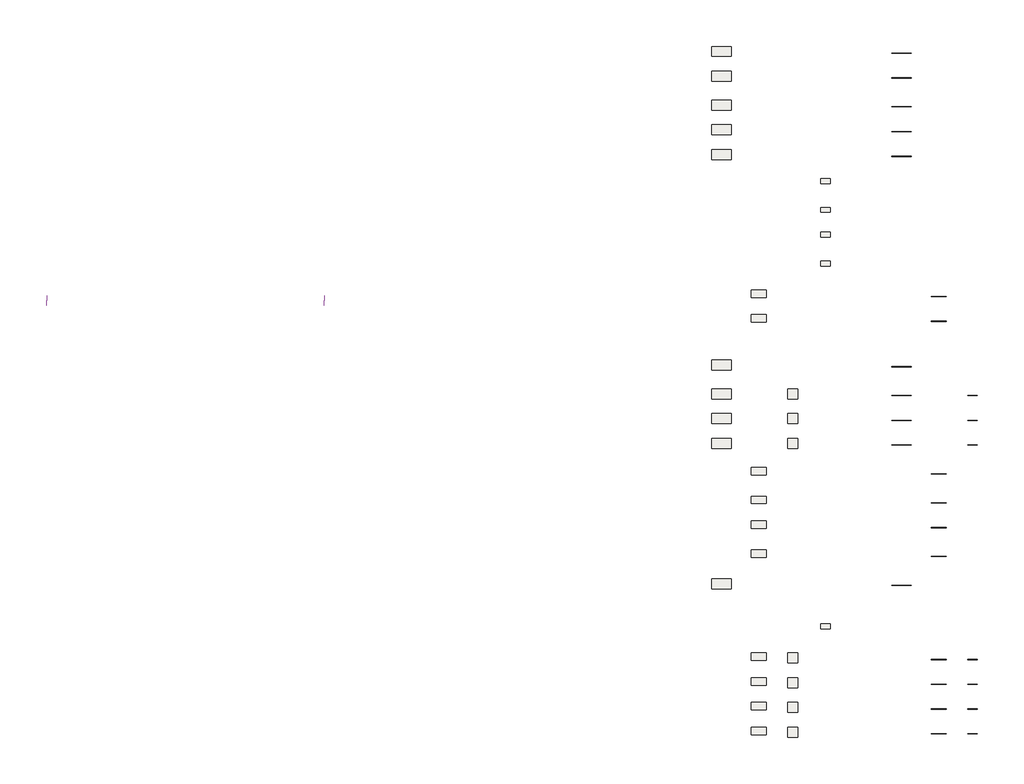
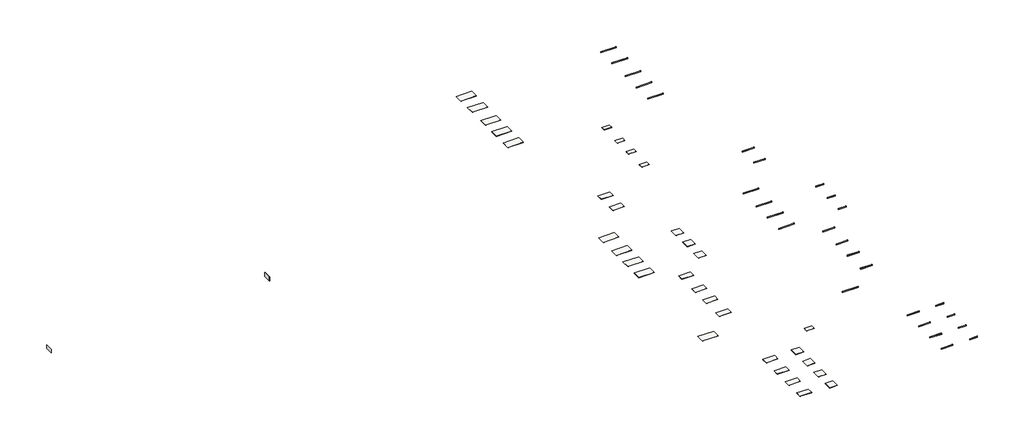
# One storey: 32 slabs, 29 walls, 27 proxies.
"""IFC4 building model written with IfcOpenShell, lengths in millimetres."""

from ifc_helpers import new_model, si_unit, frame, origin, place, context, project, spatial, polyline, outline, extrude, element, save

model = new_model("IFC4")

# Units and contexts
model_context = context("Model", 3, world=origin())
ifc_project = project(units=[si_unit("LENGTHUNIT", "METRE", prefix="MILLI")], contexts=[model_context])

# Site, building, storey
site = spatial("IfcSite", under=ifc_project)
building = spatial("IfcBuilding", under=site)
storey = spatial("IfcBuildingStorey", under=building, Name="apariencia PIEDRA", Elevation=18000.0)

# Proxies
placement = place(None, origin())
element("IfcBuildingElementProxy", 1, Name="Cesantoni_Atis _8x120_RO_Grigio_Mate", ObjectType="Cesantoni_Atis _8x120_RO_Grigio_Mate", at=placement, inside=storey, context=model_context, shape_type="SweptSolid", body=[
    extrude(outline(polyline([(9669.8218898, 374.781227), (9669.8218898, 385.781227), (10869.8218898, 385.781227), (10869.8218898, 374.781227), (9669.8218898, 374.781227)])), frame((0.0, 0.0, 18000.0), z_axis=(0.0, 0.0, 1.0), x_axis=(1.0, 0.0, 0.0)), (0.0, 0.0, 1.0), 80.0),
])
element("IfcBuildingElementProxy", 2, Name="Cesantoni_Atis _8x120_RO_Marfil_Mate", ObjectType="Cesantoni_Atis _8x120_RO_Marfil_Mate", at=placement, inside=storey, context=model_context, shape_type="SweptSolid", body=[
    extrude(outline(polyline([(9669.8218898, -1125.218773), (9669.8218898, -1114.218773), (10869.8218898, -1114.218773), (10869.8218898, -1125.218773), (9669.8218898, -1125.218773)])), frame((0.0, 0.0, 18000.0), z_axis=(0.0, 0.0, 1.0), x_axis=(1.0, 0.0, 0.0)), (0.0, 0.0, 1.0), 80.0),
])
element("IfcBuildingElementProxy", 3, Name="Cesantoni_Botev _8x120_RO_Marfil_Mate", ObjectType="Cesantoni_Botev _8x120_RO_Marfil_Mate", at=placement, inside=storey, context=model_context, shape_type="SweptSolid", body=[
    extrude(outline(polyline([(9669.8218898, -2875.218773), (9669.8218898, -2864.218773), (10869.8218898, -2864.218773), (10869.8218898, -2875.218773), (9669.8218898, -2875.218773)])), frame((0.0, 0.0, 18000.0), z_axis=(0.0, 0.0, 1.0), x_axis=(1.0, 0.0, 0.0)), (0.0, 0.0, 1.0), 80.0),
])
element("IfcBuildingElementProxy", 4, Name="Cesantoni_Botev _8x120_RO_Tabaco_Mate", ObjectType="Cesantoni_Botev _8x120_RO_Tabaco_Mate", at=placement, inside=storey, context=model_context, shape_type="SweptSolid", body=[
    extrude(outline(polyline([(9669.8218898, -4375.218773), (9669.8218898, -4364.218773), (10869.8218898, -4364.218773), (10869.8218898, -4375.218773), (9669.8218898, -4375.218773)])), frame((0.0, 0.0, 18000.0), z_axis=(0.0, 0.0, 1.0), x_axis=(1.0, 0.0, 0.0)), (0.0, 0.0, 1.0), 80.0),
])
element("IfcBuildingElementProxy", 5, Name="Cesantoni_Botev _8x120_RO_Taupé_Mate", ObjectType="Cesantoni_Botev _8x120_RO_Taupé_Mate", at=placement, inside=storey, context=model_context, shape_type="SweptSolid", body=[
    extrude(outline(polyline([(9669.8218898, -5875.218773), (9669.8218898, -5864.218773), (10869.8218898, -5864.218773), (10869.8218898, -5875.218773), (9669.8218898, -5875.218773)])), frame((0.0, 0.0, 18000.0), z_axis=(0.0, 0.0, 1.0), x_axis=(1.0, 0.0, 0.0)), (0.0, 0.0, 1.0), 80.0),
])
element("IfcBuildingElementProxy", 6, Name="Cesantoni_Gaudi_8x90_RO_Gris_Mate", ObjectType="Cesantoni_Gaudi_8x90_RO_Gris_Mate", at=placement, inside=storey, context=model_context, shape_type="SweptSolid", body=[
    extrude(outline(polyline([(12069.8218898, -14375.218773), (12069.8218898, -14364.218773), (12969.8218898, -14364.218773), (12969.8218898, -14375.218773), (12069.8218898, -14375.218773)])), frame((0.0, 0.0, 18000.0), z_axis=(0.0, 0.0, 1.0), x_axis=(1.0, 0.0, 0.0)), (0.0, 0.0, 1.0), 80.0),
])
element("IfcBuildingElementProxy", 7, Name="Cesantoni_Gaudi_8x90_RO_Café_Mate", ObjectType="Cesantoni_Gaudi_8x90_RO_Café_Mate", at=placement, inside=storey, context=model_context, shape_type="SweptSolid", body=[
    extrude(outline(polyline([(12069.8218898, -15875.218773), (12069.8218898, -15864.218773), (12969.8218898, -15864.218773), (12969.8218898, -15875.218773), (12069.8218898, -15875.218773)])), frame((0.0, 0.0, 18000.0), z_axis=(0.0, 0.0, 1.0), x_axis=(1.0, 0.0, 0.0)), (0.0, 0.0, 1.0), 80.0),
])
element("IfcBuildingElementProxy", 8, Name="Cesantoni_Helsinki _8x120_RO_Helsinki _Mate", ObjectType="Cesantoni_Helsinki _8x120_RO_Helsinki _Mate", at=placement, inside=storey, context=model_context, shape_type="SweptSolid", body=[
    extrude(outline(polyline([(9669.8218898, -18625.218773), (9669.8218898, -18614.218773), (10869.8218898, -18614.218773), (10869.8218898, -18625.218773), (9669.8218898, -18625.218773)])), frame((0.0, 0.0, 18000.0), z_axis=(0.0, 0.0, 1.0), x_axis=(1.0, 0.0, 0.0)), (0.0, 0.0, 1.0), 80.0),
])
element("IfcBuildingElementProxy", 9, Name="Cesantoni_Kiel_8x60_RO_Sand_Mate", ObjectType="Cesantoni_Kiel_8x60_RO_Sand_Mate", at=placement, inside=storey, context=model_context, shape_type="SweptSolid", body=[
    extrude(outline(polyline([(14269.8218898, -20375.218773), (14269.8218898, -20364.218773), (14869.8218898, -20364.218773), (14869.8218898, -20375.218773), (14269.8218898, -20375.218773)])), frame((0.0, 0.0, 18000.0), z_axis=(0.0, 0.0, 1.0), x_axis=(1.0, 0.0, 0.0)), (0.0, 0.0, 1.0), 80.0),
])
element("IfcBuildingElementProxy", 10, Name="Cesantoni_Kiel_8x60_RO_Gray_Mate", ObjectType="Cesantoni_Kiel_8x60_RO_Gray_Mate", at=placement, inside=storey, context=model_context, shape_type="SweptSolid", body=[
    extrude(outline(polyline([(14269.8218898, -21875.218773), (14269.8218898, -21864.218773), (14869.8218898, -21864.218773), (14869.8218898, -21875.218773), (14269.8218898, -21875.218773)])), frame((0.0, 0.0, 18000.0), z_axis=(0.0, 0.0, 1.0), x_axis=(1.0, 0.0, 0.0)), (0.0, 0.0, 1.0), 80.0),
])
element("IfcBuildingElementProxy", 11, Name="Cesantoni_Kiel_8x60_RO_Dark_Mate", ObjectType="Cesantoni_Kiel_8x60_RO_Dark_Mate", at=placement, inside=storey, context=model_context, shape_type="SweptSolid", body=[
    extrude(outline(polyline([(14269.8218898, -23375.218773), (14269.8218898, -23364.218773), (14869.8218898, -23364.218773), (14869.8218898, -23375.218773), (14269.8218898, -23375.218773)])), frame((0.0, 0.0, 18000.0), z_axis=(0.0, 0.0, 1.0), x_axis=(1.0, 0.0, 0.0)), (0.0, 0.0, 1.0), 80.0),
])
element("IfcBuildingElementProxy", 12, Name="Cesantoni_Kiel_8x120_RO_Sand_Mate", ObjectType="Cesantoni_Kiel_8x120_RO_Sand_Mate", at=placement, inside=storey, context=model_context, shape_type="SweptSolid", body=[
    extrude(outline(polyline([(9669.8218898, -20375.218773), (9669.8218898, -20364.218773), (10869.8218898, -20364.218773), (10869.8218898, -20375.218773), (9669.8218898, -20375.218773)])), frame((0.0, 0.0, 18000.0), z_axis=(0.0, 0.0, 1.0), x_axis=(1.0, 0.0, 0.0)), (0.0, 0.0, 1.0), 80.0),
])
element("IfcBuildingElementProxy", 13, Name="Cesantoni_Kiel_8x120_RO_Dark_Mate", ObjectType="Cesantoni_Kiel_8x120_RO_Dark_Mate", at=placement, inside=storey, context=model_context, shape_type="SweptSolid", body=[
    extrude(outline(polyline([(9669.8218898, -21875.218773), (9669.8218898, -21864.218773), (10869.8218898, -21864.218773), (10869.8218898, -21875.218773), (9669.8218898, -21875.218773)])), frame((0.0, 0.0, 18000.0), z_axis=(0.0, 0.0, 1.0), x_axis=(1.0, 0.0, 0.0)), (0.0, 0.0, 1.0), 80.0),
])
element("IfcBuildingElementProxy", 14, Name="Cesantoni_Kiel_8x120_RO_Gray_Mate", ObjectType="Cesantoni_Kiel_8x120_RO_Gray_Mate", at=placement, inside=storey, context=model_context, shape_type="SweptSolid", body=[
    extrude(outline(polyline([(9669.8218898, -23375.218773), (9669.8218898, -23364.218773), (10869.8218898, -23364.218773), (10869.8218898, -23375.218773), (9669.8218898, -23375.218773)])), frame((0.0, 0.0, 18000.0), z_axis=(0.0, 0.0, 1.0), x_axis=(1.0, 0.0, 0.0)), (0.0, 0.0, 1.0), 80.0),
])
element("IfcBuildingElementProxy", 15, Name="Cesantoni_Lanz_8x90_RO_Lanz_Mate", ObjectType="Cesantoni_Lanz_8x90_RO_Lanz_Mate", at=placement, inside=storey, context=model_context, shape_type="SweptSolid", body=[
    extrude(outline(polyline([(12069.8218898, -25125.218773), (12069.8218898, -25114.218773), (12969.8218898, -25114.218773), (12969.8218898, -25125.218773), (12069.8218898, -25125.218773)])), frame((0.0, 0.0, 18000.0), z_axis=(0.0, 0.0, 1.0), x_axis=(1.0, 0.0, 0.0)), (0.0, 0.0, 1.0), 80.0),
])
element("IfcBuildingElementProxy", 16, Name="Cesantoni_Lemek_8x90_RO_Grafito_Mate", ObjectType="Cesantoni_Lemek_8x90_RO_Grafito_Mate", at=placement, inside=storey, context=model_context, shape_type="SweptSolid", body=[
    extrude(outline(polyline([(12069.8218898, -26875.218773), (12069.8218898, -26864.218773), (12969.8218898, -26864.218773), (12969.8218898, -26875.218773), (12069.8218898, -26875.218773)])), frame((0.0, 0.0, 18000.0), z_axis=(0.0, 0.0, 1.0), x_axis=(1.0, 0.0, 0.0)), (0.0, 0.0, 1.0), 80.0),
])
element("IfcBuildingElementProxy", 17, Name="Cesantoni_Lemek_8x90_RO_Blanco_Mate", ObjectType="Cesantoni_Lemek_8x90_RO_Blanco_Mate", at=placement, inside=storey, context=model_context, shape_type="SweptSolid", body=[
    extrude(outline(polyline([(12069.8218898, -28375.218773), (12069.8218898, -28364.218773), (12969.8218898, -28364.218773), (12969.8218898, -28375.218773), (12069.8218898, -28375.218773)])), frame((0.0, 0.0, 18000.0), z_axis=(0.0, 0.0, 1.0), x_axis=(1.0, 0.0, 0.0)), (0.0, 0.0, 1.0), 80.0),
])
element("IfcBuildingElementProxy", 18, Name="Cesantoni_Lombardi _8x90_RO_Taupé_Mate", ObjectType="Cesantoni_Lombardi _8x90_RO_Taupé_Mate", at=placement, inside=storey, context=model_context, shape_type="SweptSolid", body=[
    extrude(outline(polyline([(12069.8218898, -30125.218773), (12069.8218898, -30114.218773), (12969.8218898, -30114.218773), (12969.8218898, -30125.218773), (12069.8218898, -30125.218773)])), frame((0.0, 0.0, 18000.0), z_axis=(0.0, 0.0, 1.0), x_axis=(1.0, 0.0, 0.0)), (0.0, 0.0, 1.0), 80.0),
])
element("IfcBuildingElementProxy", 19, Name="Cesantoni_Martel_Gray _8x120_RO_Martel_Gray _Mate", ObjectType="Cesantoni_Martel_Gray _8x120_RO_Martel_Gray _Mate", at=placement, inside=storey, context=model_context, shape_type="SweptSolid", body=[
    extrude(outline(polyline([(9669.8218898, -31875.218773), (9669.8218898, -31864.218773), (10869.8218898, -31864.218773), (10869.8218898, -31875.218773), (9669.8218898, -31875.218773)])), frame((0.0, 0.0, 18000.0), z_axis=(0.0, 0.0, 1.0), x_axis=(1.0, 0.0, 0.0)), (0.0, 0.0, 1.0), 80.0),
])
element("IfcBuildingElementProxy", 20, Name="Cesantoni_Piamont_8x90_RO_Beige_Mate", ObjectType="Cesantoni_Piamont_8x90_RO_Beige_Mate", at=placement, inside=storey, context=model_context, shape_type="SweptSolid", body=[
    extrude(outline(polyline([(12069.8218898, -36375.218773), (12069.8218898, -36364.218773), (12969.8218898, -36364.218773), (12969.8218898, -36375.218773), (12069.8218898, -36375.218773)])), frame((0.0, 0.0, 18000.0), z_axis=(0.0, 0.0, 1.0), x_axis=(1.0, 0.0, 0.0)), (0.0, 0.0, 1.0), 80.0),
])
element("IfcBuildingElementProxy", 21, Name="Cesantoni_Piamont_8x90_RO_Blanco_Mate", ObjectType="Cesantoni_Piamont_8x90_RO_Blanco_Mate", at=placement, inside=storey, context=model_context, shape_type="SweptSolid", body=[
    extrude(outline(polyline([(12069.8218898, -37875.218773), (12069.8218898, -37864.218773), (12969.8218898, -37864.218773), (12969.8218898, -37875.218773), (12069.8218898, -37875.218773)])), frame((0.0, 0.0, 18000.0), z_axis=(0.0, 0.0, 1.0), x_axis=(1.0, 0.0, 0.0)), (0.0, 0.0, 1.0), 80.0),
])
element("IfcBuildingElementProxy", 22, Name="Cesantoni_Piamont_8x90_RO_Café_Mate", ObjectType="Cesantoni_Piamont_8x90_RO_Café_Mate", at=placement, inside=storey, context=model_context, shape_type="SweptSolid", body=[
    extrude(outline(polyline([(12069.8218898, -39375.218773), (12069.8218898, -39364.218773), (12969.8218898, -39364.218773), (12969.8218898, -39375.218773), (12069.8218898, -39375.218773)])), frame((0.0, 0.0, 18000.0), z_axis=(0.0, 0.0, 1.0), x_axis=(1.0, 0.0, 0.0)), (0.0, 0.0, 1.0), 80.0),
])
element("IfcBuildingElementProxy", 23, Name="Cesantoni_Piamont_8x90_RO_Gris_Mate", ObjectType="Cesantoni_Piamont_8x90_RO_Gris_Mate", at=placement, inside=storey, context=model_context, shape_type="SweptSolid", body=[
    extrude(outline(polyline([(12069.8218898, -40875.218773), (12069.8218898, -40864.218773), (12969.8218898, -40864.218773), (12969.8218898, -40875.218773), (12069.8218898, -40875.218773)])), frame((0.0, 0.0, 18000.0), z_axis=(0.0, 0.0, 1.0), x_axis=(1.0, 0.0, 0.0)), (0.0, 0.0, 1.0), 80.0),
])
element("IfcBuildingElementProxy", 24, Name="Cesantoni_Piamont_8x60_RO_Beige_Mate", ObjectType="Cesantoni_Piamont_8x60_RO_Beige_Mate", at=placement, inside=storey, context=model_context, shape_type="SweptSolid", body=[
    extrude(outline(polyline([(14269.8218898, -36375.218773), (14269.8218898, -36364.218773), (14869.8218898, -36364.218773), (14869.8218898, -36375.218773), (14269.8218898, -36375.218773)])), frame((0.0, 0.0, 18000.0), z_axis=(0.0, 0.0, 1.0), x_axis=(1.0, 0.0, 0.0)), (0.0, 0.0, 1.0), 80.0),
])
element("IfcBuildingElementProxy", 25, Name="Cesantoni_Piamont_8x60_RO_Blanco_Mate", ObjectType="Cesantoni_Piamont_8x60_RO_Blanco_Mate", at=placement, inside=storey, context=model_context, shape_type="SweptSolid", body=[
    extrude(outline(polyline([(14269.8218898, -37875.218773), (14269.8218898, -37864.218773), (14869.8218898, -37864.218773), (14869.8218898, -37875.218773), (14269.8218898, -37875.218773)])), frame((0.0, 0.0, 18000.0), z_axis=(0.0, 0.0, 1.0), x_axis=(1.0, 0.0, 0.0)), (0.0, 0.0, 1.0), 80.0),
])
element("IfcBuildingElementProxy", 26, Name="Cesantoni_Piamont_8x60_RO_Café_Mate", ObjectType="Cesantoni_Piamont_8x60_RO_Café_Mate", at=placement, inside=storey, context=model_context, shape_type="SweptSolid", body=[
    extrude(outline(polyline([(14269.8218898, -39375.218773), (14269.8218898, -39364.218773), (14869.8218898, -39364.218773), (14869.8218898, -39375.218773), (14269.8218898, -39375.218773)])), frame((0.0, 0.0, 18000.0), z_axis=(0.0, 0.0, 1.0), x_axis=(1.0, 0.0, 0.0)), (0.0, 0.0, 1.0), 80.0),
])
element("IfcBuildingElementProxy", 27, Name="Cesantoni_Piamont_8x60_RO_Gris_Mate", ObjectType="Cesantoni_Piamont_8x60_RO_Gris_Mate", at=placement, inside=storey, context=model_context, shape_type="SweptSolid", body=[
    extrude(outline(polyline([(14269.8218898, -40875.218773), (14269.8218898, -40864.218773), (14869.8218898, -40864.218773), (14869.8218898, -40875.218773), (14269.8218898, -40875.218773)])), frame((0.0, 0.0, 18000.0), z_axis=(0.0, 0.0, 1.0), x_axis=(1.0, 0.0, 0.0)), (0.0, 0.0, 1.0), 80.0),
])

# Slabs
element("IfcSlab", 28, ObjectType="Cesantoni_Atis _60x120_RECT_Grigio_Mate", at=placement, inside=storey, context=model_context, shape_type="SweptSolid", body=[
    extrude(outline(polyline([(-28.1781102, 784.4826442), (-28.1781102, 182.4826442), (-1230.1781102, 182.4826442), (-1230.1781102, 784.4826442), (-28.1781102, 784.4826442)])), frame((0.0, 0.0, 17989.0), z_axis=(0.0, 0.0, 1.0), x_axis=(1.0, 0.0, 0.0)), (0.0, 0.0, 1.0), 11.0),
])
element("IfcSlab", 29, ObjectType="Cesantoni_Atis _60x120_RECT_Marfil_Mate", at=placement, inside=storey, context=model_context, shape_type="SweptSolid", body=[
    extrude(outline(polyline([(-28.1781102, -715.5173558), (-28.1781102, -1317.5173558), (-1230.1781102, -1317.5173558), (-1230.1781102, -715.5173558), (-28.1781102, -715.5173558)])), frame((0.0, 0.0, 17989.0), z_axis=(0.0, 0.0, 1.0), x_axis=(1.0, 0.0, 0.0)), (0.0, 0.0, 1.0), 11.0),
])
element("IfcSlab", 30, ObjectType="Cesantoni_Botev _60x120_RECT_Marfil_Mate", at=placement, inside=storey, context=model_context, shape_type="SweptSolid", body=[
    extrude(outline(polyline([(-28.1781102, -2465.5173558), (-28.1781102, -3067.5173558), (-1230.1781102, -3067.5173558), (-1230.1781102, -2465.5173558), (-28.1781102, -2465.5173558)])), frame((0.0, 0.0, 17989.0), z_axis=(0.0, 0.0, 1.0), x_axis=(1.0, 0.0, 0.0)), (0.0, 0.0, 1.0), 11.0),
])
element("IfcSlab", 31, ObjectType="Cesantoni_Botev _60x120_RECT_Tabaco_Mate", at=placement, inside=storey, context=model_context, shape_type="SweptSolid", body=[
    extrude(outline(polyline([(-28.1781102, -3965.5173558), (-28.1781102, -4567.5173558), (-1230.1781102, -4567.5173558), (-1230.1781102, -3965.5173558), (-28.1781102, -3965.5173558)])), frame((0.0, 0.0, 17989.0), z_axis=(0.0, 0.0, 1.0), x_axis=(1.0, 0.0, 0.0)), (0.0, 0.0, 1.0), 11.0),
])
element("IfcSlab", 32, ObjectType="Cesantoni_Botev _60x120_RECT_Taupé_Mate", at=placement, inside=storey, context=model_context, shape_type="SweptSolid", body=[
    extrude(outline(polyline([(-28.1781102, -5465.5173558), (-28.1781102, -6067.5173558), (-1230.1781102, -6067.5173558), (-1230.1781102, -5465.5173558), (-28.1781102, -5465.5173558)])), frame((0.0, 0.0, 17989.0), z_axis=(0.0, 0.0, 1.0), x_axis=(1.0, 0.0, 0.0)), (0.0, 0.0, 1.0), 11.0),
])
element("IfcSlab", 33, ObjectType="Cesantoni_Clever_29.5x58_Clever_Mate", at=placement, inside=storey, context=model_context, shape_type="SweptSolid", body=[
    extrude(outline(polyline([(5953.8218898, -7215.5173558), (5953.8218898, -7514.5173558), (5369.8218898, -7514.5173558), (5369.8218898, -7215.5173558), (5953.8218898, -7215.5173558)])), frame((0.0, 0.0, 17989.0), z_axis=(0.0, 0.0, 1.0), x_axis=(1.0, 0.0, 0.0)), (0.0, 0.0, 1.0), 11.0),
])
element("IfcSlab", 34, ObjectType="Cesantoni_Etiopia_29.5x58_Beige_Mate", at=placement, inside=storey, context=model_context, shape_type="SweptSolid", body=[
    extrude(outline(polyline([(5953.8218898, -8965.5173558), (5953.8218898, -9264.5173558), (5369.8218898, -9264.5173558), (5369.8218898, -8965.5173558), (5953.8218898, -8965.5173558)])), frame((0.0, 0.0, 17991.0), z_axis=(0.0, 0.0, 1.0), x_axis=(1.0, 0.0, 0.0)), (0.0, 0.0, 1.0), 9.0),
])
element("IfcSlab", 35, ObjectType="Cesantoni_Etiopia_29.5x58_Café_Mate", at=placement, inside=storey, context=model_context, shape_type="SweptSolid", body=[
    extrude(outline(polyline([(5953.8218898, -10465.5173558), (5953.8218898, -10764.5173558), (5369.8218898, -10764.5173558), (5369.8218898, -10465.5173558), (5953.8218898, -10465.5173558)])), frame((0.0, 0.0, 17991.0), z_axis=(0.0, 0.0, 1.0), x_axis=(1.0, 0.0, 0.0)), (0.0, 0.0, 1.0), 9.0),
])
element("IfcSlab", 36, ObjectType="Cesantoni_Gaskan_29.5x58_Gaskan_Mate", at=placement, inside=storey, context=model_context, shape_type="SweptSolid", body=[
    extrude(outline(polyline([(5953.8218898, -12215.5173558), (5953.8218898, -12514.5173558), (5369.8218898, -12514.5173558), (5369.8218898, -12215.5173558), (5953.8218898, -12215.5173558)])), frame((0.0, 0.0, 17991.0), z_axis=(0.0, 0.0, 1.0), x_axis=(1.0, 0.0, 0.0)), (0.0, 0.0, 1.0), 9.0),
])
element("IfcSlab", 37, ObjectType="Cesantoni_Gaudi_45x90_RECT_Gris_Mate", at=placement, inside=storey, context=model_context, shape_type="SweptSolid", body=[
    extrude(outline(polyline([(2071.8218898, -13965.5173558), (2071.8218898, -14417.5173558), (1169.8218898, -14417.5173558), (1169.8218898, -13965.5173558), (2071.8218898, -13965.5173558)])), frame((0.0, 0.0, 17989.0), z_axis=(0.0, 0.0, 1.0), x_axis=(1.0, 0.0, 0.0)), (0.0, 0.0, 1.0), 11.0),
])
element("IfcSlab", 38, ObjectType="Cesantoni_Gaudi_45x90_RECT_Café_Mate", at=placement, inside=storey, context=model_context, shape_type="SweptSolid", body=[
    extrude(outline(polyline([(2071.8218898, -15465.5173558), (2071.8218898, -15917.5173558), (1169.8218898, -15917.5173558), (1169.8218898, -15465.5173558), (2071.8218898, -15465.5173558)])), frame((0.0, 0.0, 17989.0), z_axis=(0.0, 0.0, 1.0), x_axis=(1.0, 0.0, 0.0)), (0.0, 0.0, 1.0), 11.0),
])
element("IfcSlab", 39, ObjectType="Cesantoni_Helsinki _60x120_RECT_Helsinki _Mate", at=placement, inside=storey, context=model_context, shape_type="SweptSolid", body=[
    extrude(outline(polyline([(-28.1781102, -18215.5173558), (-28.1781102, -18817.5173558), (-1230.1781102, -18817.5173558), (-1230.1781102, -18215.5173558), (-28.1781102, -18215.5173558)])), frame((0.0, 0.0, 17989.0), z_axis=(0.0, 0.0, 1.0), x_axis=(1.0, 0.0, 0.0)), (0.0, 0.0, 1.0), 11.0),
])
element("IfcSlab", 40, ObjectType="Cesantoni_Kiel_60x120_RECT_Sand_Mate", at=placement, inside=storey, context=model_context, shape_type="SweptSolid", body=[
    extrude(outline(polyline([(-28.1781102, -19965.5173558), (-28.1781102, -20567.5173558), (-1230.1781102, -20567.5173558), (-1230.1781102, -19965.5173558), (-28.1781102, -19965.5173558)])), frame((0.0, 0.0, 17989.0), z_axis=(0.0, 0.0, 1.0), x_axis=(1.0, 0.0, 0.0)), (0.0, 0.0, 1.0), 11.0),
])
element("IfcSlab", 41, ObjectType="Cesantoni_Kiel_60x120_RECT_Gray_Mate", at=placement, inside=storey, context=model_context, shape_type="SweptSolid", body=[
    extrude(outline(polyline([(-28.1781102, -21465.5173558), (-28.1781102, -22067.5173558), (-1230.1781102, -22067.5173558), (-1230.1781102, -21465.5173558), (-28.1781102, -21465.5173558)])), frame((0.0, 0.0, 17989.0), z_axis=(0.0, 0.0, 1.0), x_axis=(1.0, 0.0, 0.0)), (0.0, 0.0, 1.0), 11.0),
])
element("IfcSlab", 42, ObjectType="Cesantoni_Kiel_60x120_RECT_Dark_Mate", at=placement, inside=storey, context=model_context, shape_type="SweptSolid", body=[
    extrude(outline(polyline([(-28.1781102, -22965.5173558), (-28.1781102, -23567.5173558), (-1230.1781102, -23567.5173558), (-1230.1781102, -22965.5173558), (-28.1781102, -22965.5173558)])), frame((0.0, 0.0, 17989.0), z_axis=(0.0, 0.0, 1.0), x_axis=(1.0, 0.0, 0.0)), (0.0, 0.0, 1.0), 11.0),
])
element("IfcSlab", 43, ObjectType="Cesantoni_Kiel_60x60_RECT_Sand_Mate", at=placement, inside=storey, context=model_context, shape_type="SweptSolid", body=[
    extrude(outline(polyline([(3971.8218898, -19965.5173558), (3971.8218898, -20567.5173558), (3369.8218898, -20567.5173558), (3369.8218898, -19965.5173558), (3971.8218898, -19965.5173558)])), frame((0.0, 0.0, 17989.0), z_axis=(0.0, 0.0, 1.0), x_axis=(1.0, 0.0, 0.0)), (0.0, 0.0, 1.0), 11.0),
])
element("IfcSlab", 44, ObjectType="Cesantoni_Kiel_60x60_RECT_Gray_Mate", at=placement, inside=storey, context=model_context, shape_type="SweptSolid", body=[
    extrude(outline(polyline([(3971.8218898, -21465.5173558), (3971.8218898, -22067.5173558), (3369.8218898, -22067.5173558), (3369.8218898, -21465.5173558), (3971.8218898, -21465.5173558)])), frame((0.0, 0.0, 17989.0), z_axis=(0.0, 0.0, 1.0), x_axis=(1.0, 0.0, 0.0)), (0.0, 0.0, 1.0), 11.0),
])
element("IfcSlab", 45, ObjectType="Cesantoni_Kiel_60x60_RECT_Dark_Mate", at=placement, inside=storey, context=model_context, shape_type="SweptSolid", body=[
    extrude(outline(polyline([(3971.8218898, -22965.5173558), (3971.8218898, -23567.5173558), (3369.8218898, -23567.5173558), (3369.8218898, -22965.5173558), (3971.8218898, -22965.5173558)])), frame((0.0, 0.0, 17989.0), z_axis=(0.0, 0.0, 1.0), x_axis=(1.0, 0.0, 0.0)), (0.0, 0.0, 1.0), 11.0),
])
element("IfcSlab", 46, ObjectType="Cesantoni_Lanz_45x90_RECT_Lanz_Mate", at=placement, inside=storey, context=model_context, shape_type="SweptSolid", body=[
    extrude(outline(polyline([(2071.8218898, -24715.5173558), (2071.8218898, -25167.5173558), (1169.8218898, -25167.5173558), (1169.8218898, -24715.5173558), (2071.8218898, -24715.5173558)])), frame((0.0, 0.0, 17989.0), z_axis=(0.0, 0.0, 1.0), x_axis=(1.0, 0.0, 0.0)), (0.0, 0.0, 1.0), 11.0),
])
element("IfcSlab", 47, ObjectType="Cesantoni_Lemek_45x90_RECT_Grafito_Mate", at=placement, inside=storey, context=model_context, shape_type="SweptSolid", body=[
    extrude(outline(polyline([(2071.8218898, -26465.5173558), (2071.8218898, -26917.5173558), (1169.8218898, -26917.5173558), (1169.8218898, -26465.5173558), (2071.8218898, -26465.5173558)])), frame((0.0, 0.0, 17989.0), z_axis=(0.0, 0.0, 1.0), x_axis=(1.0, 0.0, 0.0)), (0.0, 0.0, 1.0), 11.0),
])
element("IfcSlab", 48, ObjectType="Cesantoni_Lemek_45x90_RECT_Blanco_Mate", at=placement, inside=storey, context=model_context, shape_type="SweptSolid", body=[
    extrude(outline(polyline([(2071.8218898, -27965.5173558), (2071.8218898, -28417.5173558), (1169.8218898, -28417.5173558), (1169.8218898, -27965.5173558), (2071.8218898, -27965.5173558)])), frame((0.0, 0.0, 17989.0), z_axis=(0.0, 0.0, 1.0), x_axis=(1.0, 0.0, 0.0)), (0.0, 0.0, 1.0), 11.0),
])
element("IfcSlab", 49, ObjectType="Cesantoni_Lombardi _45x90_RECT_Taupé_Mate", at=placement, inside=storey, context=model_context, shape_type="SweptSolid", body=[
    extrude(outline(polyline([(2071.8218898, -29715.5173558), (2071.8218898, -30167.5173558), (1169.8218898, -30167.5173558), (1169.8218898, -29715.5173558), (2071.8218898, -29715.5173558)])), frame((0.0, 0.0, 17989.0), z_axis=(0.0, 0.0, 1.0), x_axis=(1.0, 0.0, 0.0)), (0.0, 0.0, 1.0), 11.0),
])
element("IfcSlab", 50, ObjectType="Cesantoni_Martel_Gray _60x120_RECT_Martel_Gray _Mate", at=placement, inside=storey, context=model_context, shape_type="SweptSolid", body=[
    extrude(outline(polyline([(-28.1781102, -31465.5173558), (-28.1781102, -32067.5173558), (-1230.1781102, -32067.5173558), (-1230.1781102, -31465.5173558), (-28.1781102, -31465.5173558)])), frame((0.0, 0.0, 17989.0), z_axis=(0.0, 0.0, 1.0), x_axis=(1.0, 0.0, 0.0)), (0.0, 0.0, 1.0), 11.0),
])
element("IfcSlab", 51, ObjectType="Cesantoni_Noslow_29.5x58_Noslow_Mate", at=placement, inside=storey, context=model_context, shape_type="SweptSolid", body=[
    extrude(outline(polyline([(5953.8218898, -34215.5173558), (5953.8218898, -34514.5173558), (5369.8218898, -34514.5173558), (5369.8218898, -34215.5173558), (5953.8218898, -34215.5173558)])), frame((0.0, 0.0, 17991.0), z_axis=(0.0, 0.0, 1.0), x_axis=(1.0, 0.0, 0.0)), (0.0, 0.0, 1.0), 9.0),
])
element("IfcSlab", 52, ObjectType="Cesantoni_Piamont_60x60_RECT_Beige_Mate", at=placement, inside=storey, context=model_context, shape_type="SweptSolid", body=[
    extrude(outline(polyline([(3971.8218898, -35965.5173558), (3971.8218898, -36567.5173558), (3369.8218898, -36567.5173558), (3369.8218898, -35965.5173558), (3971.8218898, -35965.5173558)])), frame((0.0, 0.0, 17989.0), z_axis=(0.0, 0.0, 1.0), x_axis=(1.0, 0.0, 0.0)), (0.0, 0.0, 1.0), 11.0),
])
element("IfcSlab", 53, ObjectType="Cesantoni_Piamont_60x60_RECT_Blanco_Mate", at=placement, inside=storey, context=model_context, shape_type="SweptSolid", body=[
    extrude(outline(polyline([(3971.8218898, -37465.5173558), (3971.8218898, -38067.5173558), (3369.8218898, -38067.5173558), (3369.8218898, -37465.5173558), (3971.8218898, -37465.5173558)])), frame((0.0, 0.0, 17989.0), z_axis=(0.0, 0.0, 1.0), x_axis=(1.0, 0.0, 0.0)), (0.0, 0.0, 1.0), 11.0),
])
element("IfcSlab", 54, ObjectType="Cesantoni_Piamont_60x60_RECT_Café_Mate", at=placement, inside=storey, context=model_context, shape_type="SweptSolid", body=[
    extrude(outline(polyline([(3971.8218898, -38965.5173558), (3971.8218898, -39567.5173558), (3369.8218898, -39567.5173558), (3369.8218898, -38965.5173558), (3971.8218898, -38965.5173558)])), frame((0.0, 0.0, 17989.0), z_axis=(0.0, 0.0, 1.0), x_axis=(1.0, 0.0, 0.0)), (0.0, 0.0, 1.0), 11.0),
])
element("IfcSlab", 55, ObjectType="Cesantoni_Piamont_60x60_RECT_Gris_Mate", at=placement, inside=storey, context=model_context, shape_type="SweptSolid", body=[
    extrude(outline(polyline([(3971.8218898, -40465.5173558), (3971.8218898, -41067.5173558), (3369.8218898, -41067.5173558), (3369.8218898, -40465.5173558), (3971.8218898, -40465.5173558)])), frame((0.0, 0.0, 17989.0), z_axis=(0.0, 0.0, 1.0), x_axis=(1.0, 0.0, 0.0)), (0.0, 0.0, 1.0), 11.0),
])
element("IfcSlab", 56, ObjectType="Cesantoni_Piamont_45x90_RECT_Beige_Mate", at=placement, inside=storey, context=model_context, shape_type="SweptSolid", body=[
    extrude(outline(polyline([(2071.8218898, -35965.5173558), (2071.8218898, -36417.5173558), (1169.8218898, -36417.5173558), (1169.8218898, -35965.5173558), (2071.8218898, -35965.5173558)])), frame((0.0, 0.0, 17989.0), z_axis=(0.0, 0.0, 1.0), x_axis=(1.0, 0.0, 0.0)), (0.0, 0.0, 1.0), 11.0),
])
element("IfcSlab", 57, ObjectType="Cesantoni_Piamont_45x90_RECT_Blanco_Mate", at=placement, inside=storey, context=model_context, shape_type="SweptSolid", body=[
    extrude(outline(polyline([(2071.8218898, -37465.5173558), (2071.8218898, -37917.5173558), (1169.8218898, -37917.5173558), (1169.8218898, -37465.5173558), (2071.8218898, -37465.5173558)])), frame((0.0, 0.0, 17989.0), z_axis=(0.0, 0.0, 1.0), x_axis=(1.0, 0.0, 0.0)), (0.0, 0.0, 1.0), 11.0),
])
element("IfcSlab", 58, ObjectType="Cesantoni_Piamont_45x90_RECT_Café_Mate", at=placement, inside=storey, context=model_context, shape_type="SweptSolid", body=[
    extrude(outline(polyline([(2071.8218898, -38965.5173558), (2071.8218898, -39417.5173558), (1169.8218898, -39417.5173558), (1169.8218898, -38965.5173558), (2071.8218898, -38965.5173558)])), frame((0.0, 0.0, 17989.0), z_axis=(0.0, 0.0, 1.0), x_axis=(1.0, 0.0, 0.0)), (0.0, 0.0, 1.0), 11.0),
])
element("IfcSlab", 59, ObjectType="Cesantoni_Piamont_45x90_RECT_Gris_Mate", at=placement, inside=storey, context=model_context, shape_type="SweptSolid", body=[
    extrude(outline(polyline([(2071.8218898, -40465.5173558), (2071.8218898, -40917.5173558), (1169.8218898, -40917.5173558), (1169.8218898, -40465.5173558), (2071.8218898, -40465.5173558)])), frame((0.0, 0.0, 17989.0), z_axis=(0.0, 0.0, 1.0), x_axis=(1.0, 0.0, 0.0)), (0.0, 0.0, 1.0), 11.0),
])

# Walls
element("IfcWall", 60, ObjectType="Cesantoni_Ardem_30x60_RECT_Ardem_Mate", at=placement, inside=storey, context=model_context, shape_type="SweptSolid", body=[
    extrude(outline(polyline([(-24674.55447, -14310.0172176), (-24674.55447, -14912.0172176), (-24684.55447, -14912.0172176), (-24684.55447, -14310.0172176), (-24674.55447, -14310.0172176)])), frame((0.0, 0.0, 20698.0), z_axis=(0.0, 0.0, 1.0), x_axis=(1.0, 0.0, 0.0)), (0.0, 0.0, 1.0), 302.0),
])
element("IfcWall", 61, ObjectType="Cesantoni_Milena_30x60_RECT_Milena_Mate", at=placement, inside=storey, context=model_context, shape_type="SweptSolid", body=[
    extrude(outline(polyline([(-41497.3407204, -14310.0321283), (-41497.3407204, -14912.0321283), (-41507.3407204, -14912.0321283), (-41507.3407204, -14310.0321283), (-41497.3407204, -14310.0321283)])), frame((0.0, 0.0, 20698.0), z_axis=(0.0, 0.0, 1.0), x_axis=(1.0, 0.0, 0.0)), (0.0, 0.0, 1.0), 302.0),
])
element("IfcWall", 62, ObjectType="Muro básico:muro", at=placement, inside=storey, context=model_context, shape_type="SweptSolid", body=[
    extrude(outline(polyline([(10869.8218898, 385.781227), (9669.8218898, 385.781227), (9669.8218898, 386.781227), (10869.8218898, 386.781227), (10869.8218898, 385.781227)])), frame((0.0, 0.0, 18000.0), z_axis=(0.0, 0.0, 1.0), x_axis=(1.0, 0.0, 0.0)), (0.0, 0.0, 1.0), 40.0),
])
element("IfcWall", 63, ObjectType="Muro básico:muro", at=placement, inside=storey, context=model_context, shape_type="SweptSolid", body=[
    extrude(outline(polyline([(10869.8218898, -1114.218773), (9669.8218898, -1114.218773), (9669.8218898, -1113.218773), (10869.8218898, -1113.218773), (10869.8218898, -1114.218773)])), frame((0.0, 0.0, 18000.0), z_axis=(0.0, 0.0, 1.0), x_axis=(1.0, 0.0, 0.0)), (0.0, 0.0, 1.0), 40.0),
])
element("IfcWall", 64, ObjectType="Muro básico:muro", at=placement, inside=storey, context=model_context, shape_type="SweptSolid", body=[
    extrude(outline(polyline([(10869.8218898, -2864.218773), (9669.8218898, -2864.218773), (9669.8218898, -2863.218773), (10869.8218898, -2863.218773), (10869.8218898, -2864.218773)])), frame((0.0, 0.0, 18000.0), z_axis=(0.0, 0.0, 1.0), x_axis=(1.0, 0.0, 0.0)), (0.0, 0.0, 1.0), 40.0),
])
element("IfcWall", 65, ObjectType="Muro básico:muro", at=placement, inside=storey, context=model_context, shape_type="SweptSolid", body=[
    extrude(outline(polyline([(10869.8218898, -4364.218773), (9669.8218898, -4364.218773), (9669.8218898, -4363.218773), (10869.8218898, -4363.218773), (10869.8218898, -4364.218773)])), frame((0.0, 0.0, 18000.0), z_axis=(0.0, 0.0, 1.0), x_axis=(1.0, 0.0, 0.0)), (0.0, 0.0, 1.0), 40.0),
])
element("IfcWall", 66, ObjectType="Muro básico:muro", at=placement, inside=storey, context=model_context, shape_type="SweptSolid", body=[
    extrude(outline(polyline([(10869.8218898, -5864.218773), (9669.8218898, -5864.218773), (9669.8218898, -5863.218773), (10869.8218898, -5863.218773), (10869.8218898, -5864.218773)])), frame((0.0, 0.0, 18000.0), z_axis=(0.0, 0.0, 1.0), x_axis=(1.0, 0.0, 0.0)), (0.0, 0.0, 1.0), 40.0),
])
element("IfcWall", 67, ObjectType="Muro básico:muro", at=placement, inside=storey, context=model_context, shape_type="SweptSolid", body=[
    extrude(outline(polyline([(12969.8218898, -14364.218773), (12069.8218898, -14364.218773), (12069.8218898, -14363.218773), (12969.8218898, -14363.218773), (12969.8218898, -14364.218773)])), frame((0.0, 0.0, 18000.0), z_axis=(0.0, 0.0, 1.0), x_axis=(1.0, 0.0, 0.0)), (0.0, 0.0, 1.0), 40.0),
])
element("IfcWall", 68, ObjectType="Muro básico:muro", at=placement, inside=storey, context=model_context, shape_type="SweptSolid", body=[
    extrude(outline(polyline([(12969.8218898, -15864.218773), (12069.8218898, -15864.218773), (12069.8218898, -15863.218773), (12969.8218898, -15863.218773), (12969.8218898, -15864.218773)])), frame((0.0, 0.0, 18000.0), z_axis=(0.0, 0.0, 1.0), x_axis=(1.0, 0.0, 0.0)), (0.0, 0.0, 1.0), 40.0),
])
element("IfcWall", 69, ObjectType="Muro básico:muro", at=placement, inside=storey, context=model_context, shape_type="SweptSolid", body=[
    extrude(outline(polyline([(10869.8218898, -18614.218773), (9669.8218898, -18614.218773), (9669.8218898, -18613.218773), (10869.8218898, -18613.218773), (10869.8218898, -18614.218773)])), frame((0.0, 0.0, 18000.0), z_axis=(0.0, 0.0, 1.0), x_axis=(1.0, 0.0, 0.0)), (0.0, 0.0, 1.0), 40.0),
])
element("IfcWall", 70, ObjectType="Muro básico:muro", at=placement, inside=storey, context=model_context, shape_type="SweptSolid", body=[
    extrude(outline(polyline([(14869.8218898, -20364.218773), (14269.8218898, -20364.218773), (14269.8218898, -20363.218773), (14869.8218898, -20363.218773), (14869.8218898, -20364.218773)])), frame((0.0, 0.0, 18000.0), z_axis=(0.0, 0.0, 1.0), x_axis=(1.0, 0.0, 0.0)), (0.0, 0.0, 1.0), 40.0),
])
element("IfcWall", 71, ObjectType="Muro básico:muro", at=placement, inside=storey, context=model_context, shape_type="SweptSolid", body=[
    extrude(outline(polyline([(14869.8218898, -21864.218773), (14269.8218898, -21864.218773), (14269.8218898, -21863.218773), (14869.8218898, -21863.218773), (14869.8218898, -21864.218773)])), frame((0.0, 0.0, 18000.0), z_axis=(0.0, 0.0, 1.0), x_axis=(1.0, 0.0, 0.0)), (0.0, 0.0, 1.0), 40.0),
])
element("IfcWall", 72, ObjectType="Muro básico:muro", at=placement, inside=storey, context=model_context, shape_type="SweptSolid", body=[
    extrude(outline(polyline([(14869.8218898, -23364.218773), (14269.8218898, -23364.218773), (14269.8218898, -23363.218773), (14869.8218898, -23363.218773), (14869.8218898, -23364.218773)])), frame((0.0, 0.0, 18000.0), z_axis=(0.0, 0.0, 1.0), x_axis=(1.0, 0.0, 0.0)), (0.0, 0.0, 1.0), 40.0),
])
element("IfcWall", 73, ObjectType="Muro básico:muro", at=placement, inside=storey, context=model_context, shape_type="SweptSolid", body=[
    extrude(outline(polyline([(10869.8218898, -20364.218773), (9669.8218898, -20364.218773), (9669.8218898, -20363.218773), (10869.8218898, -20363.218773), (10869.8218898, -20364.218773)])), frame((0.0, 0.0, 18000.0), z_axis=(0.0, 0.0, 1.0), x_axis=(1.0, 0.0, 0.0)), (0.0, 0.0, 1.0), 40.0),
])
element("IfcWall", 74, ObjectType="Muro básico:muro", at=placement, inside=storey, context=model_context, shape_type="SweptSolid", body=[
    extrude(outline(polyline([(10869.8218898, -21864.218773), (9669.8218898, -21864.218773), (9669.8218898, -21863.218773), (10869.8218898, -21863.218773), (10869.8218898, -21864.218773)])), frame((0.0, 0.0, 18000.0), z_axis=(0.0, 0.0, 1.0), x_axis=(1.0, 0.0, 0.0)), (0.0, 0.0, 1.0), 40.0),
])
element("IfcWall", 75, ObjectType="Muro básico:muro", at=placement, inside=storey, context=model_context, shape_type="SweptSolid", body=[
    extrude(outline(polyline([(10869.8218898, -23364.218773), (9669.8218898, -23364.218773), (9669.8218898, -23363.218773), (10869.8218898, -23363.218773), (10869.8218898, -23364.218773)])), frame((0.0, 0.0, 18000.0), z_axis=(0.0, 0.0, 1.0), x_axis=(1.0, 0.0, 0.0)), (0.0, 0.0, 1.0), 40.0),
])
element("IfcWall", 76, ObjectType="Muro básico:muro", at=placement, inside=storey, context=model_context, shape_type="SweptSolid", body=[
    extrude(outline(polyline([(12969.8218898, -25114.218773), (12069.8218898, -25114.218773), (12069.8218898, -25113.218773), (12969.8218898, -25113.218773), (12969.8218898, -25114.218773)])), frame((0.0, 0.0, 18000.0), z_axis=(0.0, 0.0, 1.0), x_axis=(1.0, 0.0, 0.0)), (0.0, 0.0, 1.0), 40.0),
])
element("IfcWall", 77, ObjectType="Muro básico:muro", at=placement, inside=storey, context=model_context, shape_type="SweptSolid", body=[
    extrude(outline(polyline([(12969.8218898, -26864.218773), (12069.8218898, -26864.218773), (12069.8218898, -26863.218773), (12969.8218898, -26863.218773), (12969.8218898, -26864.218773)])), frame((0.0, 0.0, 18000.0), z_axis=(0.0, 0.0, 1.0), x_axis=(1.0, 0.0, 0.0)), (0.0, 0.0, 1.0), 40.0),
])
element("IfcWall", 78, ObjectType="Muro básico:muro", at=placement, inside=storey, context=model_context, shape_type="SweptSolid", body=[
    extrude(outline(polyline([(12969.8218898, -28364.218773), (12069.8218898, -28364.218773), (12069.8218898, -28363.218773), (12969.8218898, -28363.218773), (12969.8218898, -28364.218773)])), frame((0.0, 0.0, 18000.0), z_axis=(0.0, 0.0, 1.0), x_axis=(1.0, 0.0, 0.0)), (0.0, 0.0, 1.0), 40.0),
])
element("IfcWall", 79, ObjectType="Muro básico:muro", at=placement, inside=storey, context=model_context, shape_type="SweptSolid", body=[
    extrude(outline(polyline([(12969.8218898, -30114.218773), (12069.8218898, -30114.218773), (12069.8218898, -30113.218773), (12969.8218898, -30113.218773), (12969.8218898, -30114.218773)])), frame((0.0, 0.0, 18000.0), z_axis=(0.0, 0.0, 1.0), x_axis=(1.0, 0.0, 0.0)), (0.0, 0.0, 1.0), 40.0),
])
element("IfcWall", 80, ObjectType="Muro básico:muro", at=placement, inside=storey, context=model_context, shape_type="SweptSolid", body=[
    extrude(outline(polyline([(10869.8218898, -31864.218773), (9669.8218898, -31864.218773), (9669.8218898, -31863.218773), (10869.8218898, -31863.218773), (10869.8218898, -31864.218773)])), frame((0.0, 0.0, 18000.0), z_axis=(0.0, 0.0, 1.0), x_axis=(1.0, 0.0, 0.0)), (0.0, 0.0, 1.0), 40.0),
])
element("IfcWall", 81, ObjectType="Muro básico:muro", at=placement, inside=storey, context=model_context, shape_type="SweptSolid", body=[
    extrude(outline(polyline([(12969.8218898, -36364.218773), (12069.8218898, -36364.218773), (12069.8218898, -36363.218773), (12969.8218898, -36363.218773), (12969.8218898, -36364.218773)])), frame((0.0, 0.0, 18000.0), z_axis=(0.0, 0.0, 1.0), x_axis=(1.0, 0.0, 0.0)), (0.0, 0.0, 1.0), 40.0),
])
element("IfcWall", 82, ObjectType="Muro básico:muro", at=placement, inside=storey, context=model_context, shape_type="SweptSolid", body=[
    extrude(outline(polyline([(12969.8218898, -37864.218773), (12069.8218898, -37864.218773), (12069.8218898, -37863.218773), (12969.8218898, -37863.218773), (12969.8218898, -37864.218773)])), frame((0.0, 0.0, 18000.0), z_axis=(0.0, 0.0, 1.0), x_axis=(1.0, 0.0, 0.0)), (0.0, 0.0, 1.0), 40.0),
])
element("IfcWall", 83, ObjectType="Muro básico:muro", at=placement, inside=storey, context=model_context, shape_type="SweptSolid", body=[
    extrude(outline(polyline([(12969.8218898, -39364.218773), (12069.8218898, -39364.218773), (12069.8218898, -39363.218773), (12969.8218898, -39363.218773), (12969.8218898, -39364.218773)])), frame((0.0, 0.0, 18000.0), z_axis=(0.0, 0.0, 1.0), x_axis=(1.0, 0.0, 0.0)), (0.0, 0.0, 1.0), 40.0),
])
element("IfcWall", 84, ObjectType="Muro básico:muro", at=placement, inside=storey, context=model_context, shape_type="SweptSolid", body=[
    extrude(outline(polyline([(12969.8218898, -40864.218773), (12069.8218898, -40864.218773), (12069.8218898, -40863.218773), (12969.8218898, -40863.218773), (12969.8218898, -40864.218773)])), frame((0.0, 0.0, 18000.0), z_axis=(0.0, 0.0, 1.0), x_axis=(1.0, 0.0, 0.0)), (0.0, 0.0, 1.0), 40.0),
])
element("IfcWall", 85, ObjectType="Muro básico:muro", at=placement, inside=storey, context=model_context, shape_type="SweptSolid", body=[
    extrude(outline(polyline([(14869.8218898, -36364.218773), (14269.8218898, -36364.218773), (14269.8218898, -36363.218773), (14869.8218898, -36363.218773), (14869.8218898, -36364.218773)])), frame((0.0, 0.0, 18000.0), z_axis=(0.0, 0.0, 1.0), x_axis=(1.0, 0.0, 0.0)), (0.0, 0.0, 1.0), 40.0),
])
element("IfcWall", 86, ObjectType="Muro básico:muro", at=placement, inside=storey, context=model_context, shape_type="SweptSolid", body=[
    extrude(outline(polyline([(14869.8218898, -37864.218773), (14269.8218898, -37864.218773), (14269.8218898, -37863.218773), (14869.8218898, -37863.218773), (14869.8218898, -37864.218773)])), frame((0.0, 0.0, 18000.0), z_axis=(0.0, 0.0, 1.0), x_axis=(1.0, 0.0, 0.0)), (0.0, 0.0, 1.0), 40.0),
])
element("IfcWall", 87, ObjectType="Muro básico:muro", at=placement, inside=storey, context=model_context, shape_type="SweptSolid", body=[
    extrude(outline(polyline([(14869.8218898, -39364.218773), (14269.8218898, -39364.218773), (14269.8218898, -39363.218773), (14869.8218898, -39363.218773), (14869.8218898, -39364.218773)])), frame((0.0, 0.0, 18000.0), z_axis=(0.0, 0.0, 1.0), x_axis=(1.0, 0.0, 0.0)), (0.0, 0.0, 1.0), 40.0),
])
element("IfcWall", 88, ObjectType="Muro básico:muro", at=placement, inside=storey, context=model_context, shape_type="SweptSolid", body=[
    extrude(outline(polyline([(14869.8218898, -40864.218773), (14269.8218898, -40864.218773), (14269.8218898, -40863.218773), (14869.8218898, -40863.218773), (14869.8218898, -40864.218773)])), frame((0.0, 0.0, 18000.0), z_axis=(0.0, 0.0, 1.0), x_axis=(1.0, 0.0, 0.0)), (0.0, 0.0, 1.0), 40.0),
])

save(model, "model.ifc")
